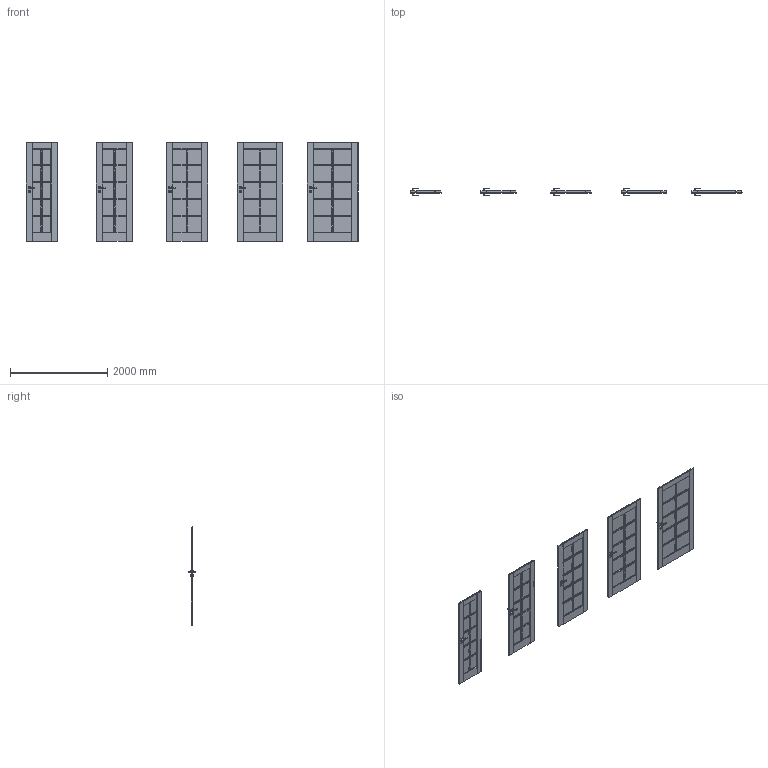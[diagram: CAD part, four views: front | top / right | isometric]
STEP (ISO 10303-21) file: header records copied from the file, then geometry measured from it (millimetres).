
FILE_DESCRIPTION(/* description */ (''),/* implementation_level */ '2;1');
FILE_NAME(/* name */ '050224_A_2-Skrzydło CORDOBA model duży szpros_ polska norma _PN__ przylgowe..stp',/* time_stamp */ '2025-01-16T11:49:06+01:00',/* author */ (''),/* organization */ (''),/* preprocessor_version */ 'ST-DEVELOPER v16',/* originating_system */ 'SIEMENS PLM Software NX 11.0',/* authorisation */ '');
FILE_SCHEMA (('AUTOMOTIVE_DESIGN { 1 0 10303 214 3 1 1 1 }'));
Products named in the file (1): bkni31A01ABE699c
Bounding box: 6844 x 153.13 x 2030 mm (x, y, z)
Volume: 169756301.9 mm3; surface area: 22281787 mm2
Topology: 25 solids, 25 shells, 3450 faces, 10150 edges, 6380 vertices
Faces by surface type: plane 2665, cylinder 485, bspline 160, sphere 140
Full cylindrical faces by diameter (mm): 12 x20
Entity records: 118265 total; most frequent: CARTESIAN_POINT 26922, ORIENTED_EDGE 19980, DIRECTION 17875, EDGE_CURVE 9990, LINE 8033, VECTOR 8033, VERTEX_POINT 6380, AXIS2_PLACEMENT_3D 4921
